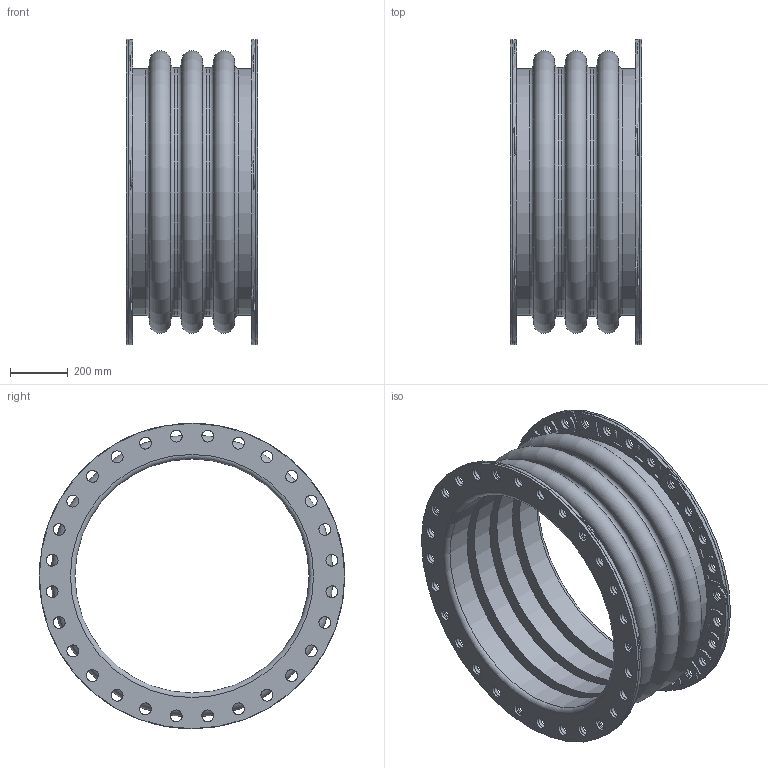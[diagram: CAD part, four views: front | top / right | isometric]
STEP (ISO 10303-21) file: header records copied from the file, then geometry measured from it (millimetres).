
FILE_DESCRIPTION(/* description */ (''),/* implementation_level */ '2;1');
FILE_NAME(/* name */ 'C:\001_Work\Designs\Mercer2014\MQInventor2014\RajR\500 Style\503\New folder\503 32IDx18FF.stp',/* time_stamp */ '2016-03-26T18:00:17-04:00',/* author */ ('rramoutar'),/* organization */ ('Mason Industries Inc.'),/* preprocessor_version */ 'ST-DEVELOPER v15.6',/* originating_system */ 'Autodesk Inventor 2015',/* authorisation */ '');
FILE_SCHEMA (('CONFIG_CONTROL_DESIGN'));
Length unit declared in the file: inch
Products named in the file (1): 503 32IDx18FF
Bounding box: 457.2 x 1060.45 x 1060.45 mm (x, y, z)
Volume: 56036626.6 mm3; surface area: 6647470.7 mm2
Topology: 3 solids, 3 shells, 902 faces, 2454 edges, 1612 vertices
Faces by surface type: cylinder 618, plane 228, torus 44, cone 12
Full cylindrical faces by diameter (mm): 41.275 x126, 812.8 x4, 857.25 x2, 863.6 x2, 873.125 x1, 1060.45 x3
Entity records: 29747 total; most frequent: DIRECTION 5482, CARTESIAN_POINT 5051, ORIENTED_EDGE 4516, AXIS2_PLACEMENT_3D 2349, EDGE_CURVE 2258, VERTEX_POINT 1582, CIRCLE 1446, EDGE_LOOP 1352
